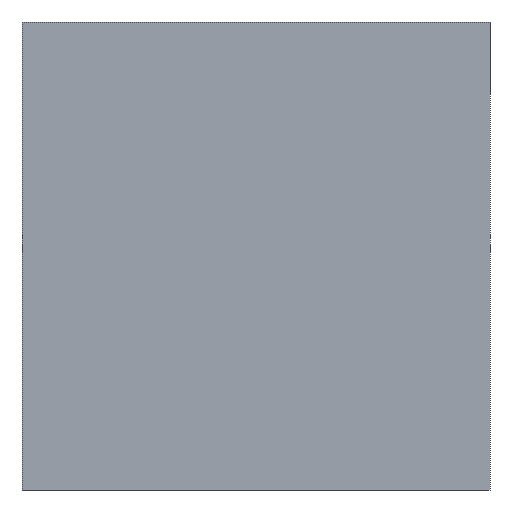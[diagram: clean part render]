
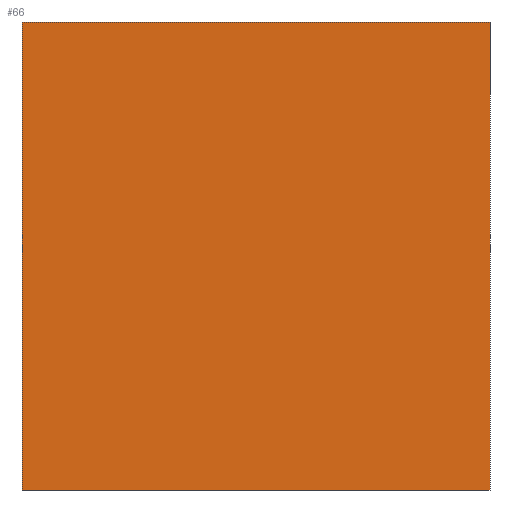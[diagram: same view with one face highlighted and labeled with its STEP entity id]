
A CAD part, left-side view. The second image highlights one B-rep face of the part: STEP entity #66.
In plain terms, the highlighted planar face has unit normal (-1, 0, 0).
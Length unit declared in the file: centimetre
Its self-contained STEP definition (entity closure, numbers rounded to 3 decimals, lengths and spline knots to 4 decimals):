
#35 = AXIS2_PLACEMENT_3D ( 'NONE', #46, #562, #302 ) ;
#46 = CARTESIAN_POINT ( 'NONE',  ( 0., 1000., 1000. ) ) ;
#53 = VECTOR ( 'NONE', #530, 100. ) ;
#60 = CARTESIAN_POINT ( 'NONE',  ( 0., 1000., 1000. ) ) ;
#66 = ADVANCED_FACE ( 'NONE', ( #723 ), #472, .F. ) ;
#145 = VECTOR ( 'NONE', #741, 100. ) ;
#164 = ORIENTED_EDGE ( 'NONE', *, *, #390, .F. ) ;
#214 = ORIENTED_EDGE ( 'NONE', *, *, #240, .T. ) ;
#240 = EDGE_CURVE ( 'NONE', #259, #817, #828, .T. ) ;
#259 = VERTEX_POINT ( 'NONE', #284 ) ;
#284 = CARTESIAN_POINT ( 'NONE',  ( 0., 1000., 1000. ) ) ;
#293 = VECTOR ( 'NONE', #869, 100. ) ;
#302 = DIRECTION ( 'NONE',  ( 0., 0., -1. ) ) ;
#350 = VERTEX_POINT ( 'NONE', #526 ) ;
#355 = EDGE_CURVE ( 'NONE', #817, #894, #948, .T. ) ;
#390 = EDGE_CURVE ( 'NONE', #259, #350, #1046, .T. ) ;
#399 = CARTESIAN_POINT ( 'NONE',  ( 0., 1000., 0. ) ) ;
#436 = DIRECTION ( 'NONE',  ( 0., 0., -1. ) ) ;
#445 = VECTOR ( 'NONE', #436, 100. ) ;
#472 = PLANE ( 'NONE',  #35 ) ;
#526 = CARTESIAN_POINT ( 'NONE',  ( 0., 0., 1000. ) ) ;
#530 = DIRECTION ( 'NONE',  ( 0., -1., 0. ) ) ;
#562 = DIRECTION ( 'NONE',  ( 1., 0., 0. ) ) ;
#687 = LINE ( 'NONE', #1030, #445 ) ;
#723 = FACE_OUTER_BOUND ( 'NONE', #979, .T. ) ;
#741 = DIRECTION ( 'NONE',  ( 0., 0., -1. ) ) ;
#748 = EDGE_CURVE ( 'NONE', #350, #894, #687, .T. ) ;
#799 = CARTESIAN_POINT ( 'NONE',  ( 0., 1000., 1000. ) ) ;
#817 = VERTEX_POINT ( 'NONE', #399 ) ;
#828 = LINE ( 'NONE', #60, #145 ) ;
#869 = DIRECTION ( 'NONE',  ( 0., -1., 0. ) ) ;
#894 = VERTEX_POINT ( 'NONE', #1084 ) ;
#922 = ORIENTED_EDGE ( 'NONE', *, *, #748, .F. ) ;
#948 = LINE ( 'NONE', #1050, #53 ) ;
#979 = EDGE_LOOP ( 'NONE', ( #1099, #922, #164, #214 ) ) ;
#1030 = CARTESIAN_POINT ( 'NONE',  ( 0., 0., 1000. ) ) ;
#1046 = LINE ( 'NONE', #799, #293 ) ;
#1050 = CARTESIAN_POINT ( 'NONE',  ( 0., 1000., 0. ) ) ;
#1084 = CARTESIAN_POINT ( 'NONE',  ( 0., 0., 0. ) ) ;
#1099 = ORIENTED_EDGE ( 'NONE', *, *, #355, .T. ) ;
